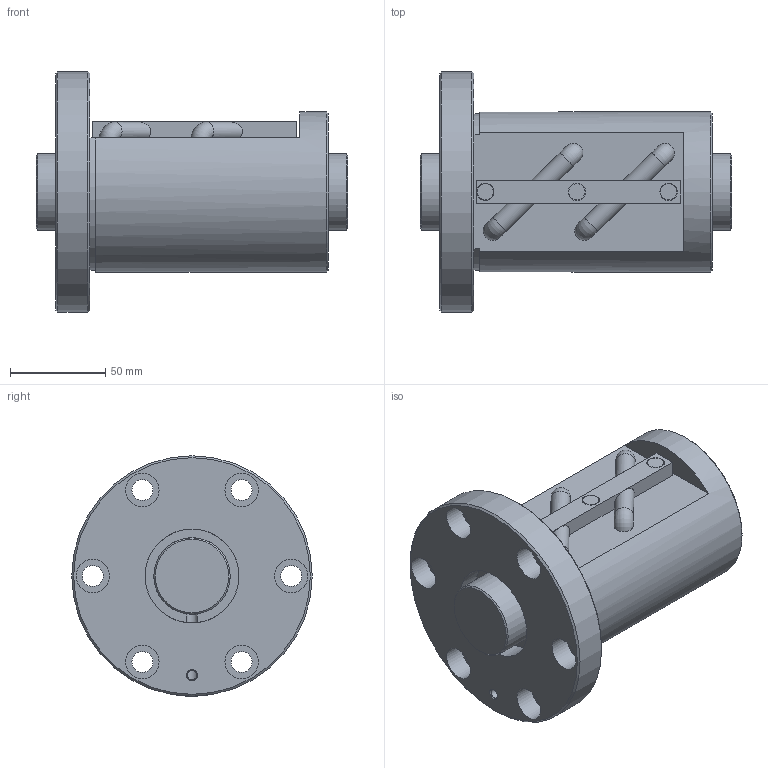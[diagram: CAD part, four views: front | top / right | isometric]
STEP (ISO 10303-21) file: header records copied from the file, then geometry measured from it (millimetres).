
FILE_DESCRIPTION(/* description */ ('STEP AP203'),/* implementation_level */ '2;1');
FILE_NAME(/* name */ 'BIF4012V-7RRG0+163LC0_000',/* time_stamp */ '2024-07-15T08:24:33+02:00',/* author */ ('License CC BY-ND 4.0'),/* organization */ ('CADENAS'),/* preprocessor_version */ 'ST-DEVELOPER v19.3',/* originating_system */ 'PARTsolutions',/* authorisation */ ' ');
FILE_SCHEMA (('CONFIG_CONTROL_DESIGN'));
Length unit declared in the file: millimetre
Products named in the file (3): BIF4012V-7RRG0+163LC0_000; BIF4012V-7RR000 Shaft; BIF4012V-7RR Nut
Assembly tree (2 placements, depth 2):
  BIF4012V-7RRG0+163LC0_000
    BIF4012V-7RR000 Shaft
    BIF4012V-7RR Nut
Bounding box: 163 x 126 x 126 mm (x, y, z)
Volume: 857807.5 mm3; surface area: 112612.8 mm2
Topology: 2 solids, 2 shells, 85 faces, 188 edges, 120 vertices
Faces by surface type: plane 43, cylinder 32, cone 6, torus 4
Full cylindrical faces by diameter (mm): 4.917 x1, 6.199 x2, 8.5 x3, 9.1 x2, 11 x6, 17.5 x6, 40 x2, 49.2 x2, 84 x1, 126 x1
Entity records: 2316 total; most frequent: CARTESIAN_POINT 449, DIRECTION 404, ORIENTED_EDGE 292, AXIS2_PLACEMENT_3D 178, EDGE_LOOP 148, FACE_BOUND 148, EDGE_CURVE 146, VERTEX_POINT 112
